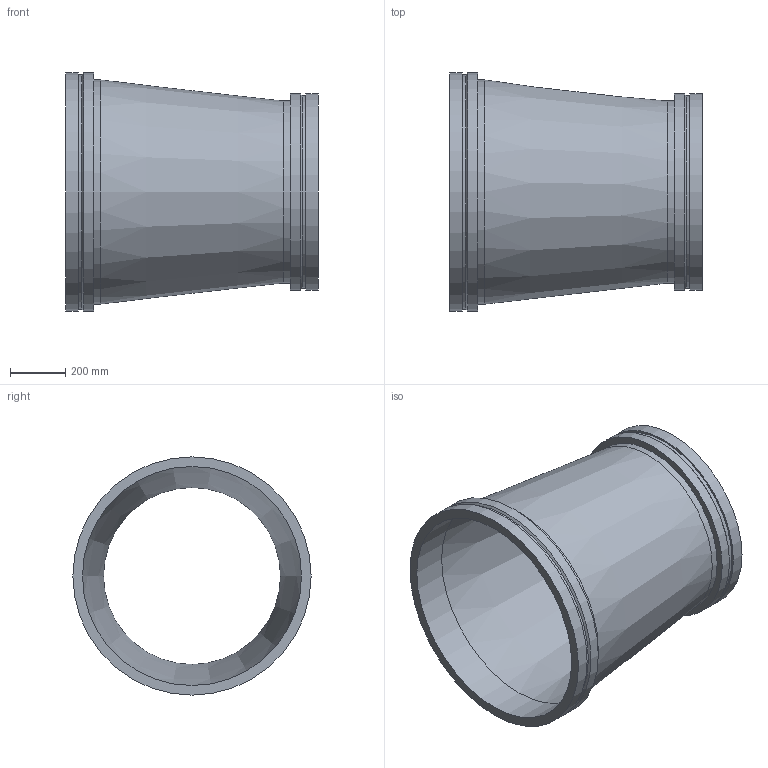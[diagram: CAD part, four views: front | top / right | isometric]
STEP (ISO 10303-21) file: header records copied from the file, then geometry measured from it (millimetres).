
FILE_DESCRIPTION(/* description */ ('VIC REDUCER CONCENTRIC No W50 VR','CAx-IF Rec.Pracs.---Representation and Presentation of Product Manufacturing Information (PMI)---4.0---2014-10-13'),/* implementation_level */ '2;1');
FILE_NAME(/* name */ 'C:\Users\kkamble\AppData\Roaming\Autodesk\ApplicationPlugins\Back Up\Victaulic_Vic-Ring_Reducer Concentric_No W50 VR (AGR)\Victaulic_Vic-Ring_Reducer Concentric_No W50 VR (AGR)_32.0x26.0 (800x650).stp',/* time_stamp */ '2020-09-10T11:46:46+05:00',/* author */ ('cps_temp'),/* organization */ ('Victaulic'),/* preprocessor_version */ 'ST-DEVELOPER v17.2',/* originating_system */ 'Autodesk Inventor 2019',/* authorisation */ '');
FILE_SCHEMA (('AP242_MANAGED_MODEL_BASED_3D_ENGINEERING_MIM_LF { 1 0 10303 442 1 1 4 }'));
Length unit declared in the file: inch
Products named in the file (1): W50 VR-32.0x26.0
Bounding box: 914.4 x 863.6 x 863.6 mm (x, y, z)
Volume: 31659621.2 mm3; surface area: 4566994.8 mm2
Topology: 1 solids, 1 shells, 20 faces, 54 edges, 40 vertices
Faces by surface type: cylinder 10, plane 6, cone 4
Full cylindrical faces by diameter (mm): 641.35 x1, 660.4 x1, 696.722 x1, 711.2 x2, 793.75 x1, 812.8 x1, 849.122 x1, 863.6 x2
Entity records: 830 total; most frequent: DIRECTION 162, CARTESIAN_POINT 132, ORIENTED_EDGE 108, AXIS2_PLACEMENT_3D 74, EDGE_CURVE 54, CIRCLE 40, VERTEX_POINT 40, EDGE_LOOP 26
